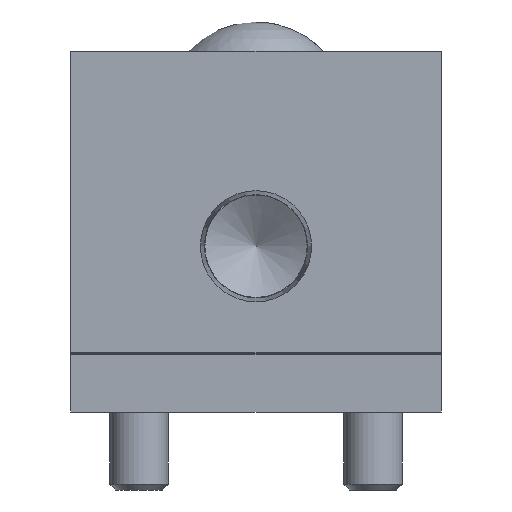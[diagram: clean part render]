
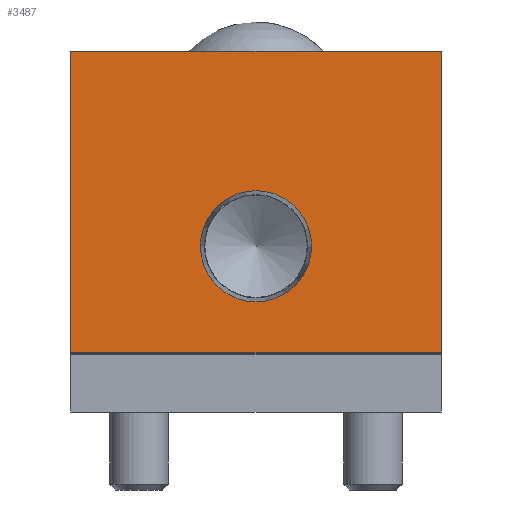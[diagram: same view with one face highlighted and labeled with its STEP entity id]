
A CAD part, front view. The second image highlights one B-rep face of the part: STEP entity #3487.
In plain terms, the highlighted planar face has unit normal (0, -1, 0).
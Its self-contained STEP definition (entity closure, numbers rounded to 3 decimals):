
#263=FACE_BOUND('',#766,.T.);
#352=CIRCLE('',#3688,5.704);
#508=FACE_OUTER_BOUND('',#765,.T.);
#765=EDGE_LOOP('',(#2494,#2495,#2496,#2497));
#766=EDGE_LOOP('',(#2498));
#1049=LINE('',#5068,#1307);
#1052=LINE('',#5073,#1310);
#1054=LINE('',#5081,#1312);
#1074=LINE('',#5130,#1332);
#1307=VECTOR('',#4081,30.9);
#1310=VECTOR('',#4086,38.);
#1312=VECTOR('',#4094,30.9);
#1332=VECTOR('',#4146,38.);
#1558=VERTEX_POINT('',#5065);
#1559=VERTEX_POINT('',#5067);
#1560=VERTEX_POINT('',#5071);
#1563=VERTEX_POINT('',#5079);
#1567=VERTEX_POINT('',#5093);
#1870=EDGE_CURVE('',#1559,#1558,#1049,.T.);
#1873=EDGE_CURVE('',#1558,#1560,#1052,.T.);
#1877=EDGE_CURVE('',#1563,#1560,#1054,.T.);
#1882=EDGE_CURVE('',#1567,#1567,#352,.T.);
#1901=EDGE_CURVE('',#1563,#1559,#1074,.T.);
#2494=ORIENTED_EDGE('',*,*,#1901,.T.);
#2495=ORIENTED_EDGE('',*,*,#1870,.T.);
#2496=ORIENTED_EDGE('',*,*,#1873,.T.);
#2497=ORIENTED_EDGE('',*,*,#1877,.F.);
#2498=ORIENTED_EDGE('',*,*,#1882,.T.);
#3155=PLANE('',#3750);
#3487=ADVANCED_FACE('',(#508,#263),#3155,.T.);
#3688=AXIS2_PLACEMENT_3D('',#5094,#4109,#4110);
#3750=AXIS2_PLACEMENT_3D('',#5292,#4284,#4285);
#4081=DIRECTION('',(0.,0.,1.));
#4086=DIRECTION('',(-1.,0.,0.));
#4094=DIRECTION('',(0.,0.,1.));
#4109=DIRECTION('center_axis',(0.,1.,0.));
#4110=DIRECTION('ref_axis',(1.,0.,0.));
#4146=DIRECTION('',(1.,0.,0.));
#4284=DIRECTION('center_axis',(0.,-1.,0.));
#4285=DIRECTION('ref_axis',(0.,0.,-1.));
#5065=CARTESIAN_POINT('',(19.,0.,37.));
#5067=CARTESIAN_POINT('',(19.,0.,6.1));
#5068=CARTESIAN_POINT('',(19.,0.,0.));
#5071=CARTESIAN_POINT('',(-19.,0.,37.));
#5073=CARTESIAN_POINT('',(19.,0.,37.));
#5079=CARTESIAN_POINT('',(-19.,0.,6.1));
#5081=CARTESIAN_POINT('',(-19.,0.,0.));
#5093=CARTESIAN_POINT('',(5.704,0.,17.));
#5094=CARTESIAN_POINT('Origin',(0.,0.,17.));
#5130=CARTESIAN_POINT('',(19.,0.,6.1));
#5292=CARTESIAN_POINT('Origin',(19.,0.,0.));
